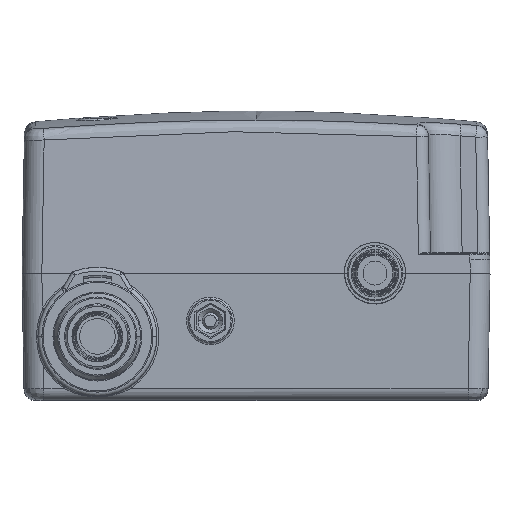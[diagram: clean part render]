
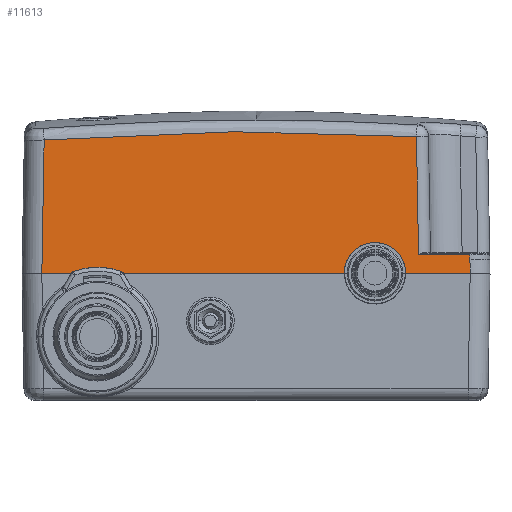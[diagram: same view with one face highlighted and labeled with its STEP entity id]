
A CAD part, top view. The second image highlights one B-rep face of the part: STEP entity #11613.
In plain terms, the highlighted planar face has unit normal (0, 0.018, 1).
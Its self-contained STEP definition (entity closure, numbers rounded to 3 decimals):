
#2359 =( BOUNDED_CURVE ( )  B_SPLINE_CURVE ( 3, ( #6691, #6495, #6818, #6527 ),
 .UNSPECIFIED., .F., .T. ) 
 B_SPLINE_CURVE_WITH_KNOTS ( ( 4, 4 ),
 ( 1.571, 4.712 ),
 .UNSPECIFIED. ) 
 CURVE ( )  GEOMETRIC_REPRESENTATION_ITEM ( )  RATIONAL_B_SPLINE_CURVE ( ( 1., 0.333, 0.333, 1. ) ) 
 REPRESENTATION_ITEM ( '' )  );
#3189 = PLANE ( 'NONE',  #15953 ) ;
#4179 = VERTEX_POINT ( 'NONE', #15143 ) ;
#4187 = VERTEX_POINT ( 'NONE', #15099 ) ;
#4212 = VERTEX_POINT ( 'NONE', #14962 ) ;
#4217 = VERTEX_POINT ( 'NONE', #14970 ) ;
#4218 = VERTEX_POINT ( 'NONE', #14969 ) ;
#4227 = VERTEX_POINT ( 'NONE', #15060 ) ;
#5514 = VERTEX_POINT ( 'NONE', #14994 ) ;
#5530 = VERTEX_POINT ( 'NONE', #15038 ) ;
#5647 = VERTEX_POINT ( 'NONE', #15291 ) ;
#6218 = FACE_OUTER_BOUND ( 'NONE', #21422, .T. ) ;
#6492 = CARTESIAN_POINT ( 'NONE',  ( -75.606, -8.312, 55.002 ) ) ;
#6495 = CARTESIAN_POINT ( 'NONE',  ( 0.646, 7.275, 54.729 ) ) ;
#6527 = CARTESIAN_POINT ( 'NONE',  ( 16.146, -8.225, 55. ) ) ;
#6691 = CARTESIAN_POINT ( 'NONE',  ( 0.646, -8.225, 55. ) ) ;
#6818 = CARTESIAN_POINT ( 'NONE',  ( 16.146, 7.275, 54.729 ) ) ;
#7618 = DIRECTION ( 'NONE',  ( -0.017, -1., 0.017 ) ) ;
#8424 = CARTESIAN_POINT ( 'NONE',  ( 32.336, -4.725, 54.939 ) ) ;
#8453 = DIRECTION ( 'NONE',  ( 0., -1., 0.017 ) ) ;
#9505 = B_SPLINE_CURVE_WITH_KNOTS ( 'NONE', 3,
 ( #16903, #17584, #17582, #16896, #16892, #17724, #17835, #17234, #17600, #16923 ),
 .UNSPECIFIED., .F., .F.,
 ( 4, 2, 2, 2, 4 ),
 ( 0., 0.023, 0.047, 0.07, 0.094 ),
 .UNSPECIFIED. ) ;
#9597 = EDGE_CURVE ( 'NONE', #4187, #4217, #12614, .T. ) ;
#9598 = EDGE_CURVE ( 'NONE', #5514, #5530, #12493, .T. ) ;
#9636 = EDGE_CURVE ( 'NONE', #5647, #4179, #9505, .T. ) ;
#9657 = EDGE_CURVE ( 'NONE', #4212, #5514, #12754, .T. ) ;
#9659 = EDGE_CURVE ( 'NONE', #4217, #5647, #12518, .T. ) ;
#9660 = EDGE_CURVE ( 'NONE', #4218, #4227, #12517, .T. ) ;
#9666 = EDGE_CURVE ( 'NONE', #4187, #5530, #12537, .T. ) ;
#9669 = EDGE_CURVE ( 'NONE', #4179, #4218, #12521, .T. ) ;
#9673 = EDGE_CURVE ( 'NONE', #4227, #4212, #2359, .T. ) ;
#10072 = CARTESIAN_POINT ( 'NONE',  ( -80.604, -8.225, 55. ) ) ;
#10086 = DIRECTION ( 'NONE',  ( 0., 0.017, 1. ) ) ;
#10087 = DIRECTION ( 'NONE',  ( 0., -1., 0.017 ) ) ;
#11613 = ADVANCED_FACE ( 'NONE', ( #6218 ), #3189, .T. ) ;
#12493 = LINE ( 'NONE', #17316, #12495 ) ;
#12495 = VECTOR ( 'NONE', #16848, 1000. ) ;
#12496 = VECTOR ( 'NONE', #17306, 1000. ) ;
#12515 = VECTOR ( 'NONE', #7618, 1000. ) ;
#12516 = VECTOR ( 'NONE', #17568, 1000. ) ;
#12517 = LINE ( 'NONE', #17655, #12516 ) ;
#12518 = LINE ( 'NONE', #17629, #12519 ) ;
#12519 = VECTOR ( 'NONE', #17195, 1000. ) ;
#12521 = LINE ( 'NONE', #6492, #12515 ) ;
#12522 = VECTOR ( 'NONE', #8453, 1000. ) ;
#12537 = LINE ( 'NONE', #8424, #12522 ) ;
#12614 = LINE ( 'NONE', #17227, #12496 ) ;
#12623 = VECTOR ( 'NONE', #17580, 1000. ) ;
#12754 = LINE ( 'NONE', #17662, #12623 ) ;
#14125 = ORIENTED_EDGE ( 'NONE', *, *, #9660, .T. ) ;
#14192 = ORIENTED_EDGE ( 'NONE', *, *, #9598, .T. ) ;
#14226 = ORIENTED_EDGE ( 'NONE', *, *, #9659, .T. ) ;
#14236 = ORIENTED_EDGE ( 'NONE', *, *, #9657, .T. ) ;
#14238 = ORIENTED_EDGE ( 'NONE', *, *, #9673, .T. ) ;
#14272 = ORIENTED_EDGE ( 'NONE', *, *, #9669, .T. ) ;
#14316 = ORIENTED_EDGE ( 'NONE', *, *, #9636, .T. ) ;
#14336 = ORIENTED_EDGE ( 'NONE', *, *, #9666, .F. ) ;
#14424 = ORIENTED_EDGE ( 'NONE', *, *, #9597, .T. ) ;
#14962 = CARTESIAN_POINT ( 'NONE',  ( 16.146, -8.225, 55. ) ) ;
#14969 = CARTESIAN_POINT ( 'NONE',  ( -75.605, -8.225, 55. ) ) ;
#14970 = CARTESIAN_POINT ( 'NONE',  ( 19.375, -3.52, 54.918 ) ) ;
#14994 = CARTESIAN_POINT ( 'NONE',  ( 32.397, -8.225, 55. ) ) ;
#15038 = CARTESIAN_POINT ( 'NONE',  ( 32.336, -4.725, 54.939 ) ) ;
#15060 = CARTESIAN_POINT ( 'NONE',  ( 0.646, -8.225, 55. ) ) ;
#15099 = CARTESIAN_POINT ( 'NONE',  ( 32.336, -3.52, 54.918 ) ) ;
#15143 = CARTESIAN_POINT ( 'NONE',  ( -75.018, 25.39, 54.413 ) ) ;
#15291 = CARTESIAN_POINT ( 'NONE',  ( 18.856, 26.233, 54.399 ) ) ;
#15953 = AXIS2_PLACEMENT_3D ( 'NONE', #10072, #10086, #10087 ) ;
#16848 = DIRECTION ( 'NONE',  ( -0.017, 1., -0.017 ) ) ;
#16892 = CARTESIAN_POINT ( 'NONE',  ( -20.252, 27.536, 54.376 ) ) ;
#16896 = CARTESIAN_POINT ( 'NONE',  ( -12.428, 27.468, 54.377 ) ) ;
#16903 = CARTESIAN_POINT ( 'NONE',  ( 18.856, 26.233, 54.399 ) ) ;
#16923 = CARTESIAN_POINT ( 'NONE',  ( -75.018, 25.39, 54.413 ) ) ;
#17195 = DIRECTION ( 'NONE',  ( -0.017, 1., -0.017 ) ) ;
#17227 = CARTESIAN_POINT ( 'NONE',  ( 19.37, -3.52, 54.918 ) ) ;
#17234 = CARTESIAN_POINT ( 'NONE',  ( -59.386, 26.425, 54.395 ) ) ;
#17306 = DIRECTION ( 'NONE',  ( -1., 0., 0. ) ) ;
#17316 = CARTESIAN_POINT ( 'NONE',  ( 32.362, -6.254, 54.966 ) ) ;
#17568 = DIRECTION ( 'NONE',  ( 1., 0., 0. ) ) ;
#17580 = DIRECTION ( 'NONE',  ( 1., 0., 0. ) ) ;
#17582 = CARTESIAN_POINT ( 'NONE',  ( 3.217, 27.045, 54.384 ) ) ;
#17584 = CARTESIAN_POINT ( 'NONE',  ( 11.037, 26.691, 54.391 ) ) ;
#17600 = CARTESIAN_POINT ( 'NONE',  ( -67.204, 25.943, 54.404 ) ) ;
#17629 = CARTESIAN_POINT ( 'NONE',  ( 19.427, -6.479, 54.97 ) ) ;
#17655 = CARTESIAN_POINT ( 'NONE',  ( -80.604, -8.225, 55. ) ) ;
#17662 = CARTESIAN_POINT ( 'NONE',  ( -80.604, -8.225, 55. ) ) ;
#17724 = CARTESIAN_POINT ( 'NONE',  ( -35.905, 27.372, 54.379 ) ) ;
#17835 = CARTESIAN_POINT ( 'NONE',  ( -43.737, 27.14, 54.383 ) ) ;
#21422 = EDGE_LOOP ( 'NONE', ( #14336, #14424, #14226, #14316, #14272, #14125, #14238, #14236, #14192 ) ) ;
